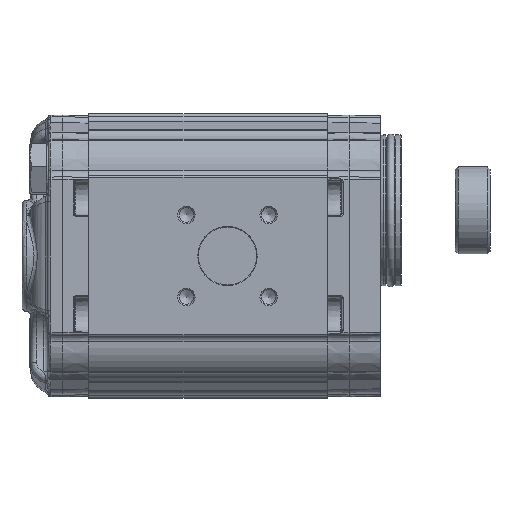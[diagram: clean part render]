
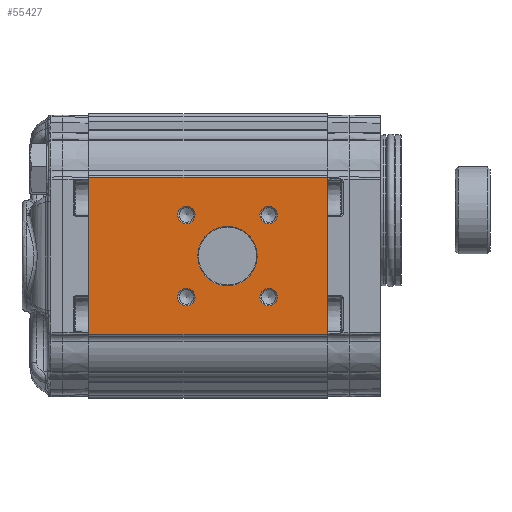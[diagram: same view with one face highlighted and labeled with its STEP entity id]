
A CAD part, left-side view. The second image highlights one B-rep face of the part: STEP entity #55427.
In plain terms, the highlighted planar face has unit normal (-1, 0, 0).
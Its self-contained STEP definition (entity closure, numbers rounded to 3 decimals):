
#3816=LINE('',#86626,#5917);
#3817=LINE('',#86629,#5918);
#3818=LINE('',#86631,#5919);
#3819=LINE('',#86633,#5920);
#5917=VECTOR('',#65820,1000.);
#5918=VECTOR('',#65821,1000.);
#5919=VECTOR('',#65822,1000.);
#5920=VECTOR('',#65823,1000.);
#13652=ORIENTED_EDGE('',*,*,#22653,.T.);
#13653=ORIENTED_EDGE('',*,*,#22654,.T.);
#13654=ORIENTED_EDGE('',*,*,#22655,.T.);
#13655=ORIENTED_EDGE('',*,*,#22656,.T.);
#13656=ORIENTED_EDGE('',*,*,#22657,.T.);
#13657=ORIENTED_EDGE('',*,*,#22658,.F.);
#13658=ORIENTED_EDGE('',*,*,#22659,.F.);
#13659=ORIENTED_EDGE('',*,*,#22660,.T.);
#13660=ORIENTED_EDGE('',*,*,#22661,.T.);
#22653=EDGE_CURVE('',#27474,#27474,#30379,.F.);
#22654=EDGE_CURVE('',#27475,#27475,#30380,.F.);
#22655=EDGE_CURVE('',#27476,#27476,#30381,.F.);
#22656=EDGE_CURVE('',#27477,#27477,#30382,.F.);
#22657=EDGE_CURVE('',#27478,#27478,#30383,.F.);
#22658=EDGE_CURVE('',#27479,#27480,#3816,.T.);
#22659=EDGE_CURVE('',#27481,#27479,#3817,.T.);
#22660=EDGE_CURVE('',#27481,#27482,#3818,.T.);
#22661=EDGE_CURVE('',#27482,#27480,#3819,.T.);
#27474=VERTEX_POINT('',#86617);
#27475=VERTEX_POINT('',#86619);
#27476=VERTEX_POINT('',#86621);
#27477=VERTEX_POINT('',#86623);
#27478=VERTEX_POINT('',#86625);
#27479=VERTEX_POINT('',#86627);
#27480=VERTEX_POINT('',#86628);
#27481=VERTEX_POINT('',#86630);
#27482=VERTEX_POINT('',#86632);
#30379=CIRCLE('',#58906,10.2);
#30380=CIRCLE('',#58907,3.);
#30381=CIRCLE('',#58908,3.);
#30382=CIRCLE('',#58909,3.);
#30383=CIRCLE('',#58910,3.);
#32334=EDGE_LOOP('',(#13652));
#32335=EDGE_LOOP('',(#13653));
#32336=EDGE_LOOP('',(#13654));
#32337=EDGE_LOOP('',(#13655));
#32338=EDGE_LOOP('',(#13656));
#32339=EDGE_LOOP('',(#13657,#13658,#13659,#13660));
#35078=FACE_BOUND('',#32334,.T.);
#35079=FACE_BOUND('',#32335,.T.);
#35080=FACE_BOUND('',#32336,.T.);
#35081=FACE_BOUND('',#32337,.T.);
#35082=FACE_BOUND('',#32338,.T.);
#35083=FACE_BOUND('',#32339,.T.);
#36877=PLANE('',#58905);
#55427=ADVANCED_FACE('',(#35078,#35079,#35080,#35081,#35082,#35083),#36877,
 .T.);
#58905=AXIS2_PLACEMENT_3D('',#86615,#65808,#65809);
#58906=AXIS2_PLACEMENT_3D('',#86616,#65810,#65811);
#58907=AXIS2_PLACEMENT_3D('',#86618,#65812,#65813);
#58908=AXIS2_PLACEMENT_3D('',#86620,#65814,#65815);
#58909=AXIS2_PLACEMENT_3D('',#86622,#65816,#65817);
#58910=AXIS2_PLACEMENT_3D('',#86624,#65818,#65819);
#65808=DIRECTION('',(-1.,0.,0.));
#65809=DIRECTION('',(0.,0.,1.));
#65810=DIRECTION('',(-1.,0.,0.));
#65811=DIRECTION('',(0.,0.,1.));
#65812=DIRECTION('',(-1.,0.,0.));
#65813=DIRECTION('',(0.,0.,1.));
#65814=DIRECTION('',(-1.,0.,0.));
#65815=DIRECTION('',(0.,0.,1.));
#65816=DIRECTION('',(-1.,0.,0.));
#65817=DIRECTION('',(0.,0.,1.));
#65818=DIRECTION('',(-1.,0.,0.));
#65819=DIRECTION('',(0.,0.,1.));
#65820=DIRECTION('',(0.,0.,-1.));
#65821=DIRECTION('',(0.,-1.,0.));
#65822=DIRECTION('',(0.,0.,-1.));
#65823=DIRECTION('',(0.,-1.,0.));
#86615=CARTESIAN_POINT('',(-43.,82.,27.048));
#86616=CARTESIAN_POINT('',(-43.,34.3,0.));
#86617=CARTESIAN_POINT('',(-43.,34.3,10.2));
#86618=CARTESIAN_POINT('',(-43.,48.442,-14.142));
#86619=CARTESIAN_POINT('',(-43.,48.442,-11.142));
#86620=CARTESIAN_POINT('',(-43.,48.442,14.142));
#86621=CARTESIAN_POINT('',(-43.,48.442,17.142));
#86622=CARTESIAN_POINT('',(-43.,20.158,14.142));
#86623=CARTESIAN_POINT('',(-43.,20.158,17.142));
#86624=CARTESIAN_POINT('',(-43.,20.158,-14.142));
#86625=CARTESIAN_POINT('',(-43.,20.158,-11.142));
#86626=CARTESIAN_POINT('',(-43.,0.,27.048));
#86627=CARTESIAN_POINT('',(-43.,0.,27.048));
#86628=CARTESIAN_POINT('',(-43.,0.,-27.048));
#86629=CARTESIAN_POINT('',(-43.,82.,27.048));
#86630=CARTESIAN_POINT('',(-43.,82.,27.048));
#86631=CARTESIAN_POINT('',(-43.,82.,27.048));
#86632=CARTESIAN_POINT('',(-43.,82.,-27.048));
#86633=CARTESIAN_POINT('',(-43.,82.,-27.048));
